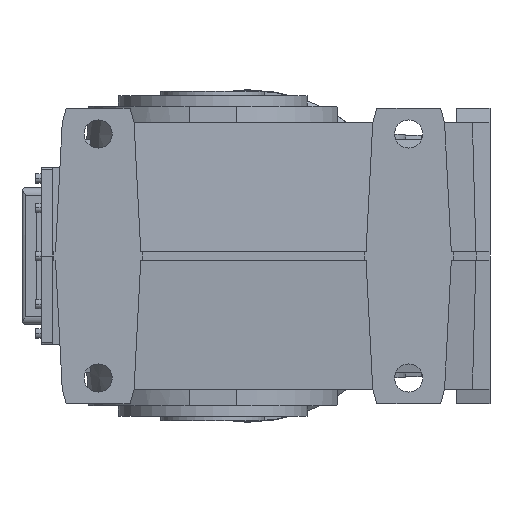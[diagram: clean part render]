
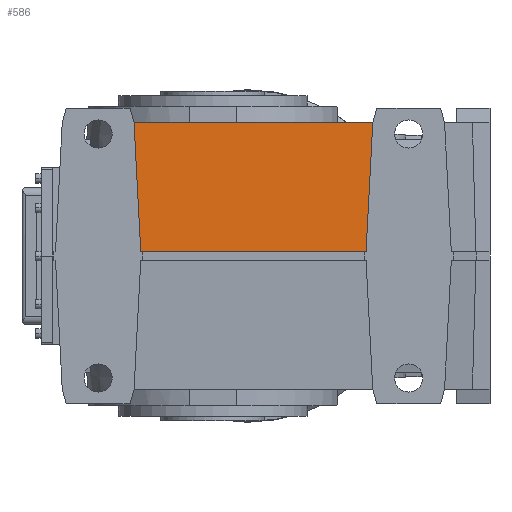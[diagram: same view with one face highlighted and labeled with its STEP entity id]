
A CAD part, left-side view. The second image highlights one B-rep face of the part: STEP entity #586.
In plain terms, the highlighted planar face has unit normal (-0.999, 0, 0.052).
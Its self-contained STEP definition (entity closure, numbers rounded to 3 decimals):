
#586 = ADVANCED_FACE( '', ( #1931 ), #1932, .T. );
#1931 = FACE_OUTER_BOUND( '', #4288, .T. );
#1932 = PLANE( '', #4289 );
#4288 = EDGE_LOOP( '', ( #7902, #7903, #7904, #7905 ) );
#4289 = AXIS2_PLACEMENT_3D( '', #7906, #7907, #7908 );
#7902 = ORIENTED_EDGE( '', *, *, #15972, .F. );
#7903 = ORIENTED_EDGE( '', *, *, #15973, .F. );
#7904 = ORIENTED_EDGE( '', *, *, #15974, .F. );
#7905 = ORIENTED_EDGE( '', *, *, #15975, .F. );
#7906 = CARTESIAN_POINT( '', ( -210.321, 203., 0. ) );
#7907 = DIRECTION( '', ( -0.999, 0., 0.052 ) );
#7908 = DIRECTION( '', ( -0.052, 0., -0.999 ) );
#15972 = EDGE_CURVE( '', #19411, #19412, #19413, .T. );
#15973 = EDGE_CURVE( '', #19414, #19411, #19415, .T. );
#15974 = EDGE_CURVE( '', #19416, #19414, #19417, .T. );
#15975 = EDGE_CURVE( '', #19412, #19416, #19418, .T. );
#19411 = VERTEX_POINT( '', #24766 );
#19412 = VERTEX_POINT( '', #24767 );
#19413 = LINE( '', #24768, #24769 );
#19414 = VERTEX_POINT( '', #24770 );
#19415 = LINE( '', #24771, #24772 );
#19416 = VERTEX_POINT( '', #24773 );
#19417 = LINE( '', #24774, #24775 );
#19418 = LINE( '', #24776, #24777 );
#24766 = CARTESIAN_POINT( '', ( -210.007, -207.333, 6. ) );
#24767 = CARTESIAN_POINT( '', ( -210.007, 97.333, 6. ) );
#24768 = CARTESIAN_POINT( '', ( -210.007, 150.166, 6. ) );
#24769 = VECTOR( '', #32572, 1. );
#24770 = CARTESIAN_POINT( '', ( -200.888, -216.452, 180. ) );
#24771 = CARTESIAN_POINT( '', ( -210.752, -206.588, -8.219 ) );
#24772 = VECTOR( '', #32573, 1. );
#24773 = CARTESIAN_POINT( '', ( -200.888, 106.452, 180. ) );
#24774 = CARTESIAN_POINT( '', ( -200.888, 203., 180. ) );
#24775 = VECTOR( '', #32574, 1. );
#24776 = CARTESIAN_POINT( '', ( -205.499, 101.841, 92.015 ) );
#24777 = VECTOR( '', #32575, 1. );
#32572 = DIRECTION( '', ( 0., 1., 0. ) );
#32573 = DIRECTION( '', ( -0.052, 0.052, -0.997 ) );
#32574 = DIRECTION( '', ( 0., -1., 0. ) );
#32575 = DIRECTION( '', ( 0.052, 0.052, 0.997 ) );
